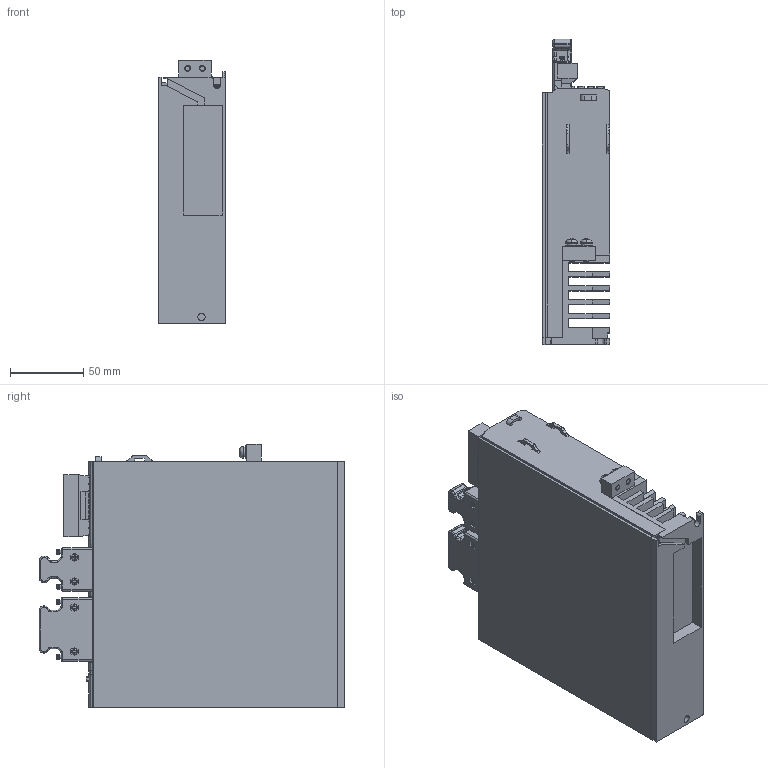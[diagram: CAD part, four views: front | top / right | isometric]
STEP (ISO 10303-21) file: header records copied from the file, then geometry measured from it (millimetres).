
FILE_DESCRIPTION((''),'2;1');
FILE_NAME('1_5KW_ASM','2023-04-23T',('Administrator'),(''),'CREO PARAMETRIC BY PTC INC, 2017480','CREO PARAMETRIC BY PTC INC, 2017480','');
FILE_SCHEMA(('CONFIG_CONTROL_DESIGN'));
Products named in the file (7): 1_5KW; DB-36_1_1; DB-14_1_1; E-8PIN-TOU; Y00003242-SRQ; GB9074_4-88-DIANPIAN_M4X12; 1_5KW_ASM
Assembly tree (7 placements, depth 2):
  1_5KW_ASM
    1_5KW
    DB-36_1_1
    DB-14_1_1
    E-8PIN-TOU
    Y00003242-SRQ
    GB9074_4-88-DIANPIAN_M4X12  x2
Bounding box: 46 x 208.4 x 179.6 mm (x, y, z)
Volume: 1188768.9 mm3; surface area: 210987.7 mm2
Topology: 7 solids, 7 shells, 2278 faces, 5965 edges, 3907 vertices
Faces by surface type: plane 1760, cylinder 403, torus 46, extrusion 33, revolution 16, sphere 12, cone 4, bspline 4
Entity records: 84967 total; most frequent: CARTESIAN_POINT 13910, ORIENTED_EDGE 11778, DIRECTION 11056, EDGE_CURVE 5889, VECTOR 4776, LINE 4743, PRESENTATION_STYLE_ASSIGNMENT 4628, STYLED_ITEM 4376
